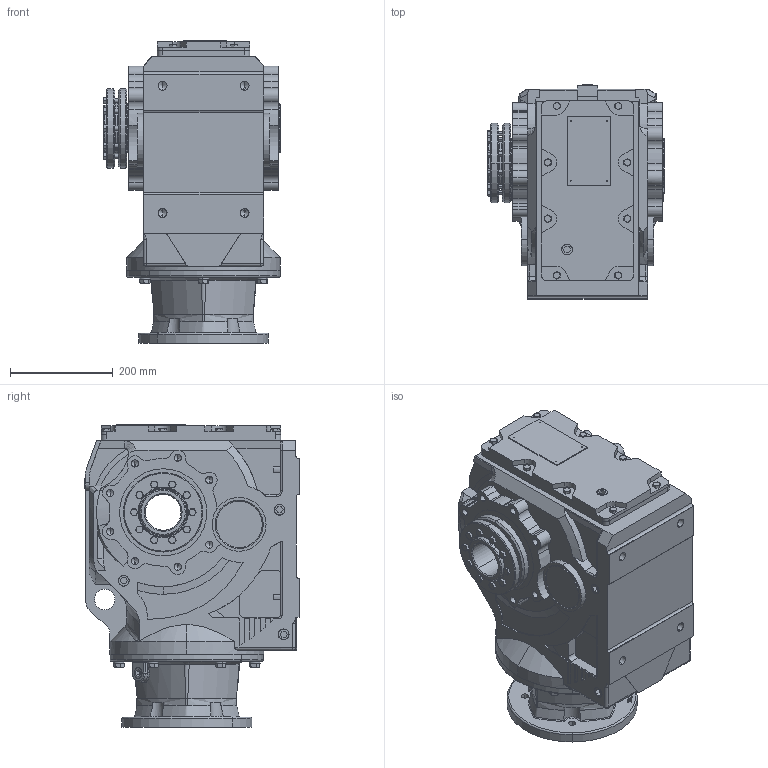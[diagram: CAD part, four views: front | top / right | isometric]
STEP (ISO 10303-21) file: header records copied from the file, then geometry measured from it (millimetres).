
FILE_DESCRIPTION (( 'STEP AP203' ), '1' );
FILE_NAME ('KAN97-254TC-B-POWER LOCK.STEP', '2020-11-25T03:11:16', ( 'Microsoft' ), ( 'Microsoft' ), 'SwSTEP 2.0', 'SolidWorks 2012', '' );
FILE_SCHEMA (( 'CONFIG_CONTROL_DESIGN' ));
Products named in the file (1): KAN97-254TC-B-POWER LOCK
Bounding box: 345 x 417.5 x 590.5 mm (x, y, z)
Volume: 43943426 mm3; surface area: 1413882.7 mm2
Topology: 2 solids, 10 shells, 1770 faces, 4488 edges, 2814 vertices
Faces by surface type: plane 705, cylinder 520, cone 362, bspline 133, torus 47, sphere 3
Entity records: 63443 total; most frequent: CARTESIAN_POINT 21555, ORIENTED_EDGE 8814, DIRECTION 8530, EDGE_CURVE 4407, AXIS2_PLACEMENT_3D 3152, VERTEX_POINT 2814, VECTOR 2226, LINE 2226
